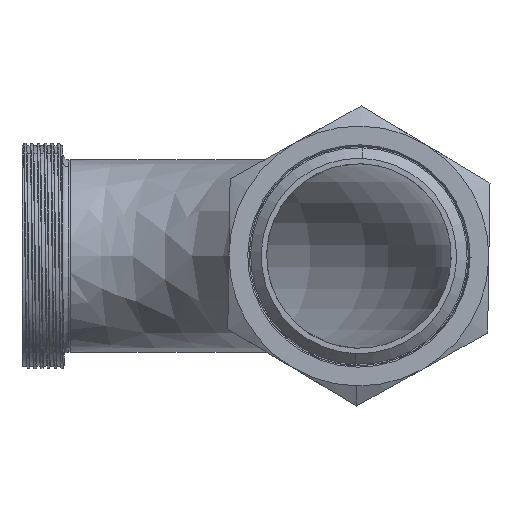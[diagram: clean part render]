
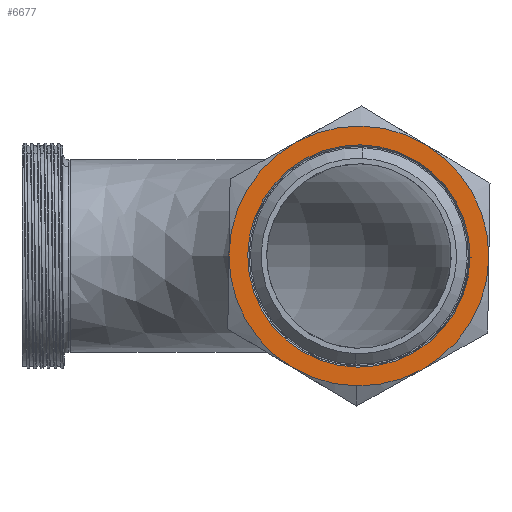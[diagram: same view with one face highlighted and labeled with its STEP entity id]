
A CAD part, front view. The second image highlights one B-rep face of the part: STEP entity #6677.
In plain terms, the highlighted planar face has unit normal (0, -1, 0) as drawn and (0, 0, 1) by its records, which use the part's own axes.
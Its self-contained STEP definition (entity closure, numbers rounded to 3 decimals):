
#113 = CIRCLE ( 'NONE', #9183, 68.58 ) ;
#689 = DIRECTION ( 'NONE',  ( 1., 0., 0. ) ) ;
#829 = CIRCLE ( 'NONE', #3151, 58.674 ) ;
#860 = DIRECTION ( 'NONE',  ( 1., 0., 0. ) ) ;
#919 = AXIS2_PLACEMENT_3D ( 'NONE', #12505, #15352, #15625 ) ;
#1074 = CARTESIAN_POINT ( 'NONE',  ( 0., 0., 38.354 ) ) ;
#1352 = CARTESIAN_POINT ( 'NONE',  ( 59.392, 34.29, 38.354 ) ) ;
#1379 = CIRCLE ( 'NONE', #6067, 58.674 ) ;
#1461 = CARTESIAN_POINT ( 'NONE',  ( 0., -68.58, 38.354 ) ) ;
#1520 = CARTESIAN_POINT ( 'NONE',  ( 59.392, -34.29, 38.354 ) ) ;
#1613 = CIRCLE ( 'NONE', #1895, 68.58 ) ;
#1699 = FACE_BOUND ( 'NONE', #7804, .T. ) ;
#1735 = EDGE_CURVE ( 'NONE', #10452, #6863, #6259, .T. ) ;
#1780 = CIRCLE ( 'NONE', #14668, 68.58 ) ;
#1895 = AXIS2_PLACEMENT_3D ( 'NONE', #3666, #16128, #16642 ) ;
#2681 = CARTESIAN_POINT ( 'NONE',  ( 0., 0., 38.354 ) ) ;
#3065 = DIRECTION ( 'NONE',  ( 1., 0., 0. ) ) ;
#3151 = AXIS2_PLACEMENT_3D ( 'NONE', #15525, #16814, #12588 ) ;
#3424 = CARTESIAN_POINT ( 'NONE',  ( 0., 0., 38.354 ) ) ;
#3639 = CARTESIAN_POINT ( 'NONE',  ( -58.674, 0., 38.354 ) ) ;
#3666 = CARTESIAN_POINT ( 'NONE',  ( 0., 0., 38.354 ) ) ;
#3672 = EDGE_CURVE ( 'NONE', #4323, #5978, #829, .T. ) ;
#3770 = EDGE_CURVE ( 'NONE', #5978, #4323, #1379, .T. ) ;
#4171 = CARTESIAN_POINT ( 'NONE',  ( -59.392, 34.29, 38.354 ) ) ;
#4323 = VERTEX_POINT ( 'NONE', #14506 ) ;
#5347 = DIRECTION ( 'NONE',  ( 1., 0., 0. ) ) ;
#5652 = CIRCLE ( 'NONE', #12963, 68.58 ) ;
#5732 = CARTESIAN_POINT ( 'NONE',  ( 0., 0., 38.354 ) ) ;
#5915 = CARTESIAN_POINT ( 'NONE',  ( 0., 68.58, 38.354 ) ) ;
#5978 = VERTEX_POINT ( 'NONE', #3639 ) ;
#6067 = AXIS2_PLACEMENT_3D ( 'NONE', #5732, #12766, #3065 ) ;
#6068 = CARTESIAN_POINT ( 'NONE',  ( 68.58, 0., 38.354 ) ) ;
#6259 = CIRCLE ( 'NONE', #17371, 68.58 ) ;
#6459 = EDGE_CURVE ( 'NONE', #11552, #6531, #1780, .T. ) ;
#6531 = VERTEX_POINT ( 'NONE', #5915 ) ;
#6577 = EDGE_CURVE ( 'NONE', #6616, #9215, #7340, .T. ) ;
#6616 = VERTEX_POINT ( 'NONE', #4171 ) ;
#6669 = DIRECTION ( 'NONE',  ( 1., 0., 0. ) ) ;
#6677 = ADVANCED_FACE ( 'NONE', ( #1699, #9940 ), #7108, .T. ) ;
#6700 = ORIENTED_EDGE ( 'NONE', *, *, #14603, .T. ) ;
#6845 = CIRCLE ( 'NONE', #7717, 68.58 ) ;
#6863 = VERTEX_POINT ( 'NONE', #1520 ) ;
#7108 = PLANE ( 'NONE',  #9971 ) ;
#7194 = CARTESIAN_POINT ( 'NONE',  ( 0., 0., 38.354 ) ) ;
#7340 = CIRCLE ( 'NONE', #919, 68.58 ) ;
#7717 = AXIS2_PLACEMENT_3D ( 'NONE', #13966, #12587, #12498 ) ;
#7804 = EDGE_LOOP ( 'NONE', ( #13951, #10979 ) ) ;
#7813 = CARTESIAN_POINT ( 'NONE',  ( 0., 0., 38.354 ) ) ;
#8186 = DIRECTION ( 'NONE',  ( 0., 0., 1. ) ) ;
#8386 = DIRECTION ( 'NONE',  ( 1., 0., 0. ) ) ;
#8651 = DIRECTION ( 'NONE',  ( 0., 0., 1. ) ) ;
#9154 = EDGE_CURVE ( 'NONE', #6531, #6616, #1613, .T. ) ;
#9183 = AXIS2_PLACEMENT_3D ( 'NONE', #3424, #13222, #689 ) ;
#9215 = VERTEX_POINT ( 'NONE', #12086 ) ;
#9354 = ORIENTED_EDGE ( 'NONE', *, *, #6459, .T. ) ;
#9940 = FACE_OUTER_BOUND ( 'NONE', #11150, .T. ) ;
#9971 = AXIS2_PLACEMENT_3D ( 'NONE', #7194, #8651, #8386 ) ;
#10452 = VERTEX_POINT ( 'NONE', #1461 ) ;
#10979 = ORIENTED_EDGE ( 'NONE', *, *, #3770, .T. ) ;
#11150 = EDGE_LOOP ( 'NONE', ( #6700, #11923, #9354, #16322, #16493, #13383, #15952 ) ) ;
#11552 = VERTEX_POINT ( 'NONE', #1352 ) ;
#11923 = ORIENTED_EDGE ( 'NONE', *, *, #12810, .T. ) ;
#12086 = CARTESIAN_POINT ( 'NONE',  ( -59.392, -34.29, 38.354 ) ) ;
#12358 = EDGE_CURVE ( 'NONE', #9215, #10452, #6845, .T. ) ;
#12498 = DIRECTION ( 'NONE',  ( 1., 0., 0. ) ) ;
#12505 = CARTESIAN_POINT ( 'NONE',  ( 0., 0., 38.354 ) ) ;
#12587 = DIRECTION ( 'NONE',  ( 0., 0., 1. ) ) ;
#12588 = DIRECTION ( 'NONE',  ( 1., 0., 0. ) ) ;
#12766 = DIRECTION ( 'NONE',  ( 0., 0., -1. ) ) ;
#12810 = EDGE_CURVE ( 'NONE', #13052, #11552, #113, .T. ) ;
#12963 = AXIS2_PLACEMENT_3D ( 'NONE', #2681, #8186, #5347 ) ;
#13052 = VERTEX_POINT ( 'NONE', #6068 ) ;
#13222 = DIRECTION ( 'NONE',  ( 0., 0., 1. ) ) ;
#13383 = ORIENTED_EDGE ( 'NONE', *, *, #12358, .T. ) ;
#13392 = DIRECTION ( 'NONE',  ( 0., 0., 1. ) ) ;
#13791 = DIRECTION ( 'NONE',  ( 0., 0., 1. ) ) ;
#13951 = ORIENTED_EDGE ( 'NONE', *, *, #3672, .T. ) ;
#13966 = CARTESIAN_POINT ( 'NONE',  ( 0., 0., 38.354 ) ) ;
#14506 = CARTESIAN_POINT ( 'NONE',  ( 58.674, 0., 38.354 ) ) ;
#14603 = EDGE_CURVE ( 'NONE', #6863, #13052, #5652, .T. ) ;
#14668 = AXIS2_PLACEMENT_3D ( 'NONE', #1074, #13791, #6669 ) ;
#15352 = DIRECTION ( 'NONE',  ( 0., 0., 1. ) ) ;
#15525 = CARTESIAN_POINT ( 'NONE',  ( 0., 0., 38.354 ) ) ;
#15625 = DIRECTION ( 'NONE',  ( 1., 0., 0. ) ) ;
#15952 = ORIENTED_EDGE ( 'NONE', *, *, #1735, .T. ) ;
#16128 = DIRECTION ( 'NONE',  ( 0., 0., 1. ) ) ;
#16322 = ORIENTED_EDGE ( 'NONE', *, *, #9154, .T. ) ;
#16493 = ORIENTED_EDGE ( 'NONE', *, *, #6577, .T. ) ;
#16642 = DIRECTION ( 'NONE',  ( 1., 0., 0. ) ) ;
#16814 = DIRECTION ( 'NONE',  ( 0., 0., -1. ) ) ;
#17371 = AXIS2_PLACEMENT_3D ( 'NONE', #7813, #13392, #860 ) ;
